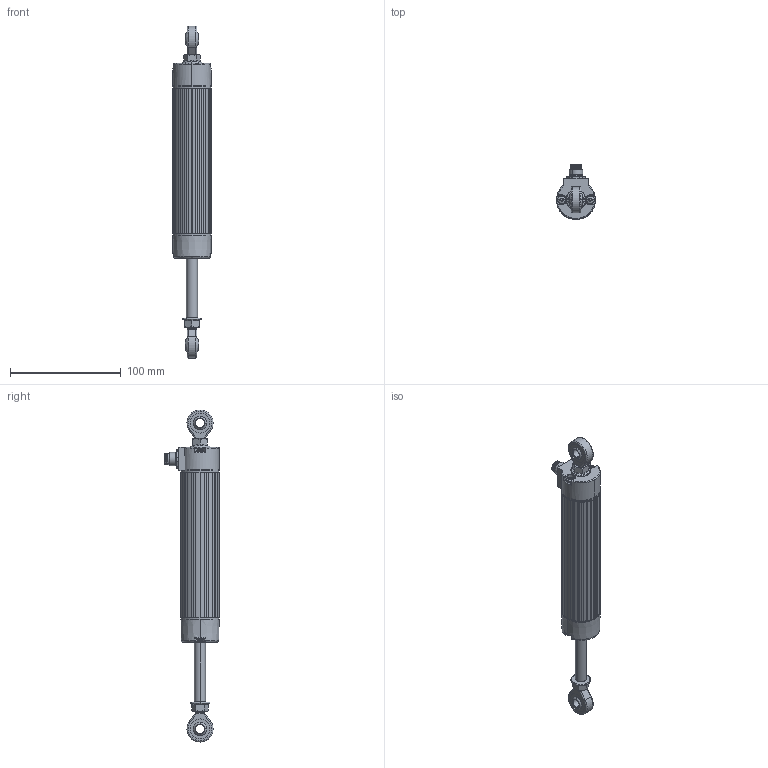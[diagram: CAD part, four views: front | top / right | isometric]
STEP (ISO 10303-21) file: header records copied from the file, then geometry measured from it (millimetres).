
FILE_DESCRIPTION (( 'STEP AP214' ), '1' );
FILE_NAME ('0050.STEP', '2009-01-28T15:26:15', ( 'novotechnik' ), ( 'novotechnik' ), 'SwSTEP 2.0', 'SolidWorks 2009', '' );
FILE_SCHEMA (( 'AUTOMOTIVE_DESIGN' ));
Length unit declared in the file: millimetre
Products named in the file (3): 0050_Bew; 0050
Assembly tree (2 placements, depth 2):
  0050
    0050_Bew
    0050
Bounding box: 35.03 x 49.52 x 299.6 mm (x, y, z)
Volume: 177512.2 mm3; surface area: 51799.8 mm2
Topology: 16 solids, 16 shells, 996 faces, 2527 edges, 1581 vertices
Faces by surface type: cylinder 326, plane 294, bspline 187, cone 169, torus 12, sphere 8
Entity records: 50868 total; most frequent: CARTESIAN_POINT 17017, ORIENTED_EDGE 5026, DIRECTION 4525, EDGE_CURVE 2513, AXIS2_PLACEMENT_3D 1757, VERTEX_POINT 1581, EDGE_LOOP 1064, VECTOR 1011
